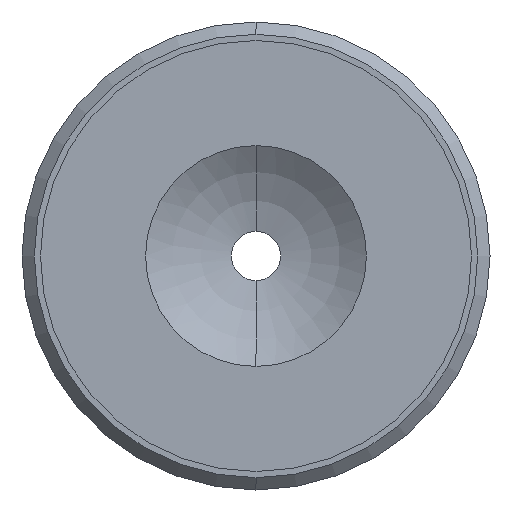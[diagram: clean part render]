
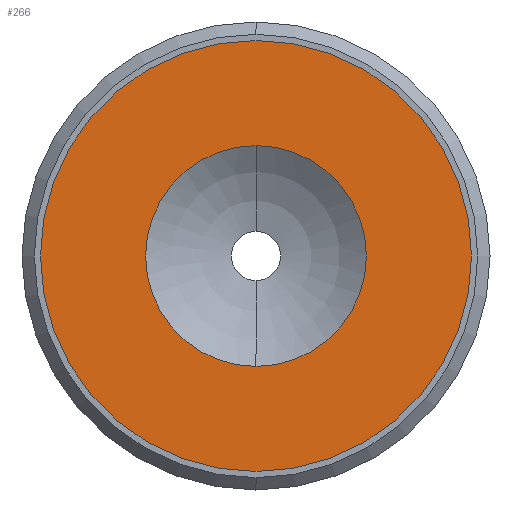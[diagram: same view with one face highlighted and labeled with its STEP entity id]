
A CAD part, left-side view. The second image highlights one B-rep face of the part: STEP entity #266.
In plain terms, the highlighted planar face has unit normal (-1, 0, 0).
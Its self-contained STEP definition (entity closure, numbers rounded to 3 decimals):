
#9 = CARTESIAN_POINT ( 'NONE',  ( 0., 0., 0. ) ) ;
#22 = CIRCLE ( 'NONE', #58, 8.962 ) ;
#38 = FACE_BOUND ( 'NONE', #278, .T. ) ;
#54 = AXIS2_PLACEMENT_3D ( 'NONE', #55, #110, #111 ) ;
#55 = CARTESIAN_POINT ( 'NONE',  ( 0., 8.962, 0. ) ) ;
#58 = AXIS2_PLACEMENT_3D ( 'NONE', #141, #363, #325 ) ;
#59 = PLANE ( 'NONE',  #54 ) ;
#71 = EDGE_CURVE ( 'NONE', #139, #391, #261, .T. ) ;
#110 = DIRECTION ( 'NONE',  ( 1., 0., 0. ) ) ;
#111 = DIRECTION ( 'NONE',  ( 0., 0., -1. ) ) ;
#121 = AXIS2_PLACEMENT_3D ( 'NONE', #433, #470, #478 ) ;
#139 = VERTEX_POINT ( 'NONE', #195 ) ;
#141 = CARTESIAN_POINT ( 'NONE',  ( 0., 0., 0. ) ) ;
#160 = CARTESIAN_POINT ( 'NONE',  ( 0., 0., -8.962 ) ) ;
#177 = ORIENTED_EDGE ( 'NONE', *, *, #71, .T. ) ;
#180 = VERTEX_POINT ( 'NONE', #319 ) ;
#195 = CARTESIAN_POINT ( 'NONE',  ( 0., 0., 17.5 ) ) ;
#203 = CARTESIAN_POINT ( 'NONE',  ( 0., 0., -17.5 ) ) ;
#241 = AXIS2_PLACEMENT_3D ( 'NONE', #514, #517, #549 ) ;
#252 = DIRECTION ( 'NONE',  ( 0., 0., 1. ) ) ;
#261 = CIRCLE ( 'NONE', #494, 17.5 ) ;
#266 = ADVANCED_FACE ( 'NONE', ( #38, #395 ), #59, .F. ) ;
#278 = EDGE_LOOP ( 'NONE', ( #547, #443 ) ) ;
#288 = VERTEX_POINT ( 'NONE', #160 ) ;
#319 = CARTESIAN_POINT ( 'NONE',  ( 0., 0., 8.962 ) ) ;
#325 = DIRECTION ( 'NONE',  ( 0., 0., 1. ) ) ;
#363 = DIRECTION ( 'NONE',  ( -1., 0., 0. ) ) ;
#371 = EDGE_CURVE ( 'NONE', #288, #180, #574, .T. ) ;
#391 = VERTEX_POINT ( 'NONE', #203 ) ;
#395 = FACE_OUTER_BOUND ( 'NONE', #527, .T. ) ;
#404 = EDGE_CURVE ( 'NONE', #391, #139, #512, .T. ) ;
#433 = CARTESIAN_POINT ( 'NONE',  ( 0., 0., 0. ) ) ;
#439 = EDGE_CURVE ( 'NONE', #180, #288, #22, .T. ) ;
#443 = ORIENTED_EDGE ( 'NONE', *, *, #371, .F. ) ;
#470 = DIRECTION ( 'NONE',  ( -1., 0., 0. ) ) ;
#478 = DIRECTION ( 'NONE',  ( 0., 0., 1. ) ) ;
#479 = ORIENTED_EDGE ( 'NONE', *, *, #404, .T. ) ;
#494 = AXIS2_PLACEMENT_3D ( 'NONE', #9, #555, #252 ) ;
#512 = CIRCLE ( 'NONE', #121, 17.5 ) ;
#514 = CARTESIAN_POINT ( 'NONE',  ( 0., 0., 0. ) ) ;
#517 = DIRECTION ( 'NONE',  ( -1., 0., 0. ) ) ;
#527 = EDGE_LOOP ( 'NONE', ( #177, #479 ) ) ;
#547 = ORIENTED_EDGE ( 'NONE', *, *, #439, .F. ) ;
#549 = DIRECTION ( 'NONE',  ( 0., 0., 1. ) ) ;
#555 = DIRECTION ( 'NONE',  ( -1., 0., 0. ) ) ;
#574 = CIRCLE ( 'NONE', #241, 8.962 ) ;
